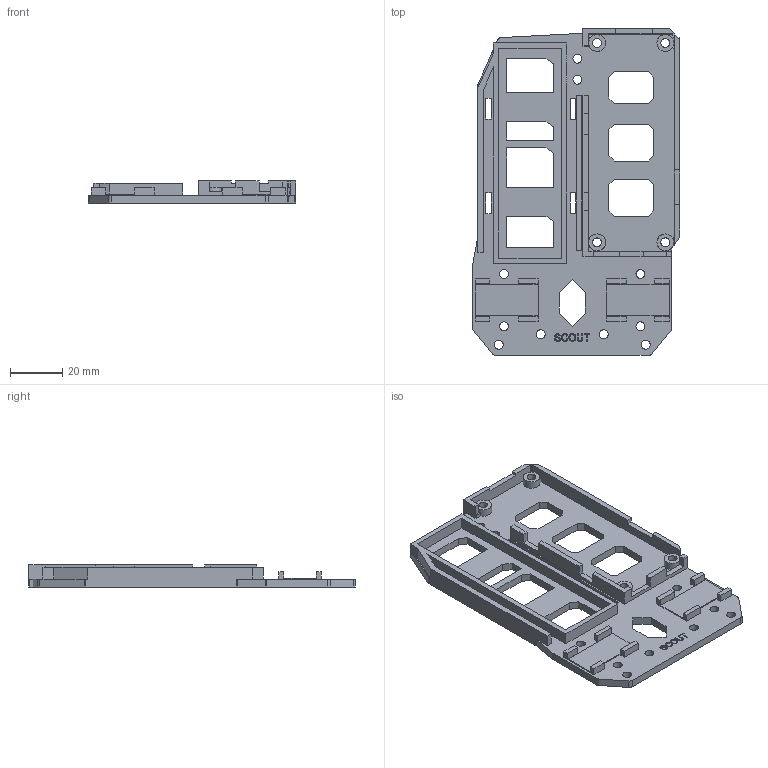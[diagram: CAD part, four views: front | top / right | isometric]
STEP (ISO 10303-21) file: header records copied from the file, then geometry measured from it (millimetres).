
FILE_DESCRIPTION(/* description */ (''),/* implementation_level */ '2;1');
FILE_NAME(/* name */ 'Integral-Chassis-M3-RevB.step',/* time_stamp */ '2026-10-04T16:01:25-04:00',/* author */ (''),/* organization */ (''),/* preprocessor_version */ 'ST-DEVELOPER v20.2',/* originating_system */ 'Autodesk Translation Framework v15.15.0.0',/* authorisation */ '');
FILE_SCHEMA (('AUTOMOTIVE_DESIGN { 1 0 10303 214 3 1 1 }'));
Length unit declared in the file: centimetre
Products named in the file (1): Untitled
Bounding box: 78.9 x 124.4 x 8.4 mm (x, y, z)
Volume: 27298.2 mm3; surface area: 23811.3 mm2
Topology: 1 solids, 1 shells, 409 faces, 1134 edges, 754 vertices
Faces by surface type: plane 293, bspline 84, cylinder 32
Full cylindrical faces by diameter (mm): 3.4 x14, 6.4 x4
Entity records: 13165 total; most frequent: CARTESIAN_POINT 3054, ORIENTED_EDGE 2268, DIRECTION 1691, EDGE_CURVE 1134, LINE 893, VECTOR 893, VERTEX_POINT 754, EDGE_LOOP 488
